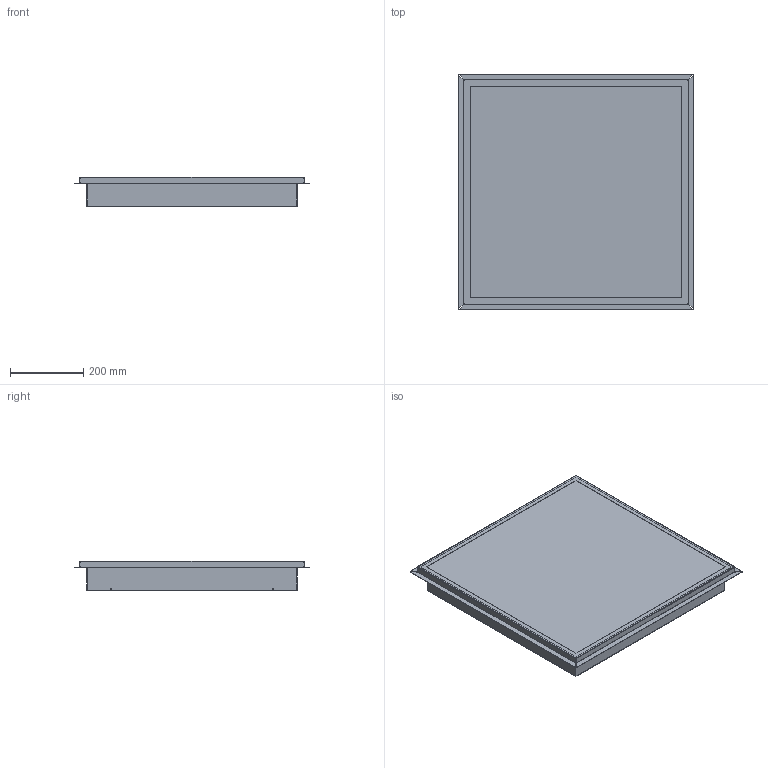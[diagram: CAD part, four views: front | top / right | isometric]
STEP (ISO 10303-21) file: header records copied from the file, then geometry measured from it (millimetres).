
FILE_DESCRIPTION(/* description */ (''),/* implementation_level */ '2;1');
FILE_NAME(/* name */ 'C:/Users/elena/Desktop/Corner QNR 60.step',/* time_stamp */ '2020-06-17T13:35:00+02:00',/* author */ (''),/* organization */ (''),/* preprocessor_version */ 'ST-DEVELOPER v18.1',/* originating_system */ 'Autodesk Translation Framework v9.3.0.1241',/* authorisation */ '');
FILE_SCHEMA (('AUTOMOTIVE_DESIGN { 1 0 10303 214 3 1 1 }'));
Length unit declared in the file: millimetre
Products named in the file (1): (Unsaved)
Bounding box: 642 x 642 x 79 mm (x, y, z)
Volume: 1729844.1 mm3; surface area: 2048950.6 mm2
Topology: 3 solids, 3 shells, 147 faces, 348 edges, 202 vertices
Faces by surface type: plane 91, cylinder 52, bspline 4
Entity records: 4928 total; most frequent: CARTESIAN_POINT 1460, DIRECTION 718, ORIENTED_EDGE 700, EDGE_CURVE 350, LINE 246, VECTOR 246, AXIS2_PLACEMENT_3D 236, VERTEX_POINT 204
